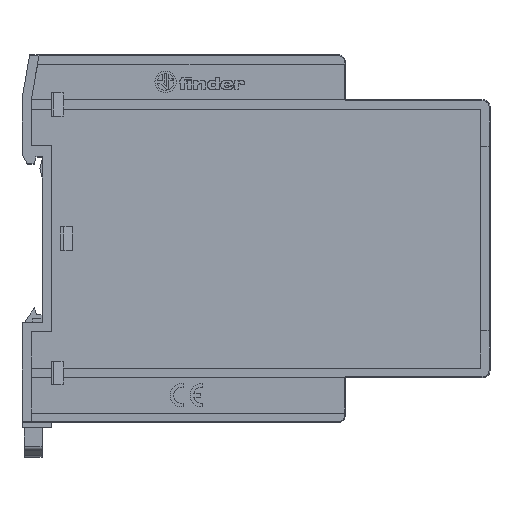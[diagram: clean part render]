
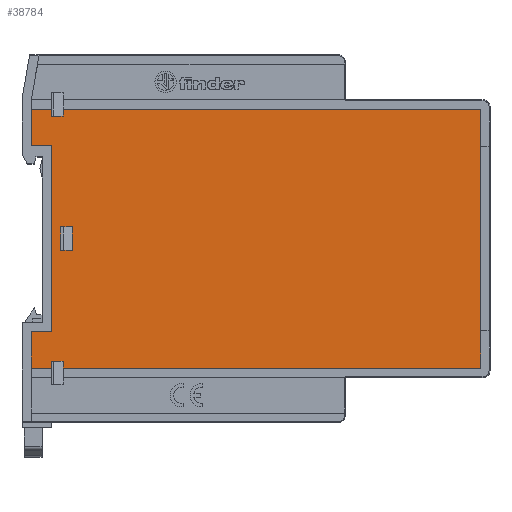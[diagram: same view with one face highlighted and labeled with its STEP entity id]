
A CAD part, top view. The second image highlights one B-rep face of the part: STEP entity #38784.
In plain terms, the highlighted planar face has unit normal (0, 0, 1).
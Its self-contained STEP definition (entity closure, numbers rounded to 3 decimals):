
#364=PLANE('',#41776);
#3647=ORIENTED_EDGE('',*,*,#13507,.F.);
#3648=ORIENTED_EDGE('',*,*,#13508,.T.);
#3649=ORIENTED_EDGE('',*,*,#13509,.F.);
#3650=ORIENTED_EDGE('',*,*,#13510,.T.);
#3651=ORIENTED_EDGE('',*,*,#13511,.F.);
#3652=ORIENTED_EDGE('',*,*,#13512,.T.);
#3653=ORIENTED_EDGE('',*,*,#13513,.F.);
#3654=ORIENTED_EDGE('',*,*,#13514,.T.);
#3655=ORIENTED_EDGE('',*,*,#13515,.F.);
#3656=ORIENTED_EDGE('',*,*,#13516,.T.);
#3657=ORIENTED_EDGE('',*,*,#13517,.F.);
#3658=ORIENTED_EDGE('',*,*,#13501,.T.);
#3659=ORIENTED_EDGE('',*,*,#13499,.T.);
#3660=ORIENTED_EDGE('',*,*,#13506,.T.);
#3661=ORIENTED_EDGE('',*,*,#13518,.F.);
#3662=ORIENTED_EDGE('',*,*,#13519,.F.);
#3663=ORIENTED_EDGE('',*,*,#13520,.T.);
#3664=ORIENTED_EDGE('',*,*,#13521,.F.);
#3665=ORIENTED_EDGE('',*,*,#13522,.F.);
#3666=ORIENTED_EDGE('',*,*,#13523,.F.);
#13499=EDGE_CURVE('',#19684,#19683,#24418,.T.);
#13501=EDGE_CURVE('',#19685,#19684,#24420,.T.);
#13506=EDGE_CURVE('',#19683,#19688,#24425,.T.);
#13507=EDGE_CURVE('',#19689,#19690,#24426,.T.);
#13508=EDGE_CURVE('',#19689,#19691,#24427,.T.);
#13509=EDGE_CURVE('',#19692,#19691,#24428,.T.);
#13510=EDGE_CURVE('',#19692,#19693,#24429,.T.);
#13511=EDGE_CURVE('',#19694,#19693,#24430,.T.);
#13512=EDGE_CURVE('',#19694,#19695,#24431,.T.);
#13513=EDGE_CURVE('',#19696,#19695,#24432,.T.);
#13514=EDGE_CURVE('',#19696,#19697,#24433,.T.);
#13515=EDGE_CURVE('',#19698,#19697,#24434,.T.);
#13516=EDGE_CURVE('',#19698,#19699,#24435,.T.);
#13517=EDGE_CURVE('',#19685,#19699,#24436,.T.);
#13518=EDGE_CURVE('',#19700,#19688,#24437,.T.);
#13519=EDGE_CURVE('',#19690,#19700,#24438,.T.);
#13520=EDGE_CURVE('',#19701,#19702,#24439,.T.);
#13521=EDGE_CURVE('',#19703,#19702,#24440,.T.);
#13522=EDGE_CURVE('',#19704,#19703,#24441,.T.);
#13523=EDGE_CURVE('',#19701,#19704,#24442,.T.);
#19683=VERTEX_POINT('',#56321);
#19684=VERTEX_POINT('',#56323);
#19685=VERTEX_POINT('',#56327);
#19688=VERTEX_POINT('',#56335);
#19689=VERTEX_POINT('',#56339);
#19690=VERTEX_POINT('',#56340);
#19691=VERTEX_POINT('',#56342);
#19692=VERTEX_POINT('',#56344);
#19693=VERTEX_POINT('',#56346);
#19694=VERTEX_POINT('',#56348);
#19695=VERTEX_POINT('',#56350);
#19696=VERTEX_POINT('',#56352);
#19697=VERTEX_POINT('',#56354);
#19698=VERTEX_POINT('',#56356);
#19699=VERTEX_POINT('',#56358);
#19700=VERTEX_POINT('',#56361);
#19701=VERTEX_POINT('',#56364);
#19702=VERTEX_POINT('',#56365);
#19703=VERTEX_POINT('',#56367);
#19704=VERTEX_POINT('',#56369);
#24418=LINE('',#56322,#29934);
#24420=LINE('',#56326,#29936);
#24425=LINE('',#56336,#29941);
#24426=LINE('',#56338,#29942);
#24427=LINE('',#56341,#29943);
#24428=LINE('',#56343,#29944);
#24429=LINE('',#56345,#29945);
#24430=LINE('',#56347,#29946);
#24431=LINE('',#56349,#29947);
#24432=LINE('',#56351,#29948);
#24433=LINE('',#56353,#29949);
#24434=LINE('',#56355,#29950);
#24435=LINE('',#56357,#29951);
#24436=LINE('',#56359,#29952);
#24437=LINE('',#56360,#29953);
#24438=LINE('',#56362,#29954);
#24439=LINE('',#56363,#29955);
#24440=LINE('',#56366,#29956);
#24441=LINE('',#56368,#29957);
#24442=LINE('',#56370,#29958);
#29934=VECTOR('',#45310,1000.);
#29936=VECTOR('',#45314,1000.);
#29941=VECTOR('',#45321,1000.);
#29942=VECTOR('',#45324,1000.);
#29943=VECTOR('',#45325,1000.);
#29944=VECTOR('',#45326,1000.);
#29945=VECTOR('',#45327,1000.);
#29946=VECTOR('',#45328,1000.);
#29947=VECTOR('',#45329,1000.);
#29948=VECTOR('',#45330,1000.);
#29949=VECTOR('',#45331,1000.);
#29950=VECTOR('',#45332,1000.);
#29951=VECTOR('',#45333,1000.);
#29952=VECTOR('',#45334,1000.);
#29953=VECTOR('',#45335,1000.);
#29954=VECTOR('',#45336,1000.);
#29955=VECTOR('',#45337,1000.);
#29956=VECTOR('',#45338,1000.);
#29957=VECTOR('',#45339,1000.);
#29958=VECTOR('',#45340,1000.);
#34835=EDGE_LOOP('',(#3647,#3648,#3649,#3650,#3651,#3652,#3653,#3654,#3655,
#3656,#3657,#3658,#3659,#3660,#3661,#3662));
#34836=EDGE_LOOP('',(#3663,#3664,#3665,#3666));
#36762=FACE_BOUND('',#34835,.T.);
#36763=FACE_BOUND('',#34836,.T.);
#38784=ADVANCED_FACE('',(#36762,#36763),#364,.T.);
#41776=AXIS2_PLACEMENT_3D('',#56337,#45322,#45323);
#45310=DIRECTION('',(0.,1.,0.));
#45314=DIRECTION('',(1.,0.,0.));
#45321=DIRECTION('',(-1.,0.,0.));
#45322=DIRECTION('',(0.,0.,1.));
#45323=DIRECTION('',(1.,0.,0.));
#45324=DIRECTION('',(0.,-1.,0.));
#45325=DIRECTION('',(-1.,0.,0.));
#45326=DIRECTION('',(0.,1.,0.));
#45327=DIRECTION('',(1.,0.,0.));
#45328=DIRECTION('',(0.,1.,0.));
#45329=DIRECTION('',(-1.,0.,0.));
#45330=DIRECTION('',(0.,1.,0.));
#45331=DIRECTION('',(1.,0.,0.));
#45332=DIRECTION('',(0.,-1.,0.));
#45333=DIRECTION('',(1.,0.,0.));
#45334=DIRECTION('',(0.,1.,0.));
#45335=DIRECTION('',(0.,1.,0.));
#45336=DIRECTION('',(1.,0.,0.));
#45337=DIRECTION('',(1.,0.,0.));
#45338=DIRECTION('',(0.,1.,0.));
#45339=DIRECTION('',(1.,0.,0.));
#45340=DIRECTION('',(0.,-1.,0.));
#56321=CARTESIAN_POINT('',(48.,27.75,22.5));
#56322=CARTESIAN_POINT('',(48.,-27.75,22.5));
#56323=CARTESIAN_POINT('',(48.,-27.75,22.5));
#56326=CARTESIAN_POINT('',(-41.5,-27.75,22.5));
#56327=CARTESIAN_POINT('',(-41.5,-27.75,22.5));
#56335=CARTESIAN_POINT('',(-41.5,27.75,22.5));
#56336=CARTESIAN_POINT('',(48.,27.75,22.5));
#56337=CARTESIAN_POINT('',(-50.188,28.787,22.5));
#56338=CARTESIAN_POINT('',(-44.,27.75,22.5));
#56339=CARTESIAN_POINT('',(-44.,27.75,22.5));
#56340=CARTESIAN_POINT('',(-44.,26.25,22.5));
#56341=CARTESIAN_POINT('',(-43.243,27.75,22.5));
#56342=CARTESIAN_POINT('',(-48.3,27.75,22.5));
#56343=CARTESIAN_POINT('',(-48.3,20.,22.5));
#56344=CARTESIAN_POINT('',(-48.3,20.,22.5));
#56345=CARTESIAN_POINT('',(-48.3,20.,22.5));
#56346=CARTESIAN_POINT('',(-44.,20.,22.5));
#56347=CARTESIAN_POINT('',(-44.,-20.,22.5));
#56348=CARTESIAN_POINT('',(-44.,-20.,22.5));
#56349=CARTESIAN_POINT('',(-44.,-20.,22.5));
#56350=CARTESIAN_POINT('',(-48.3,-20.,22.5));
#56351=CARTESIAN_POINT('',(-48.3,-27.75,22.5));
#56352=CARTESIAN_POINT('',(-48.3,-27.75,22.5));
#56353=CARTESIAN_POINT('',(-48.3,-27.75,22.5));
#56354=CARTESIAN_POINT('',(-44.,-27.75,22.5));
#56355=CARTESIAN_POINT('',(-44.,-26.25,22.5));
#56356=CARTESIAN_POINT('',(-44.,-26.25,22.5));
#56357=CARTESIAN_POINT('',(-44.,-26.25,22.5));
#56358=CARTESIAN_POINT('',(-41.5,-26.25,22.5));
#56359=CARTESIAN_POINT('',(-41.5,-27.75,22.5));
#56360=CARTESIAN_POINT('',(-41.5,26.25,22.5));
#56361=CARTESIAN_POINT('',(-41.5,26.25,22.5));
#56362=CARTESIAN_POINT('',(-44.,26.25,22.5));
#56363=CARTESIAN_POINT('',(-42.,2.5,22.5));
#56364=CARTESIAN_POINT('',(-42.,2.5,22.5));
#56365=CARTESIAN_POINT('',(-39.5,2.5,22.5));
#56366=CARTESIAN_POINT('',(-39.5,-2.5,22.5));
#56367=CARTESIAN_POINT('',(-39.5,-2.5,22.5));
#56368=CARTESIAN_POINT('',(-42.,-2.5,22.5));
#56369=CARTESIAN_POINT('',(-42.,-2.5,22.5));
#56370=CARTESIAN_POINT('',(-42.,2.5,22.5));
